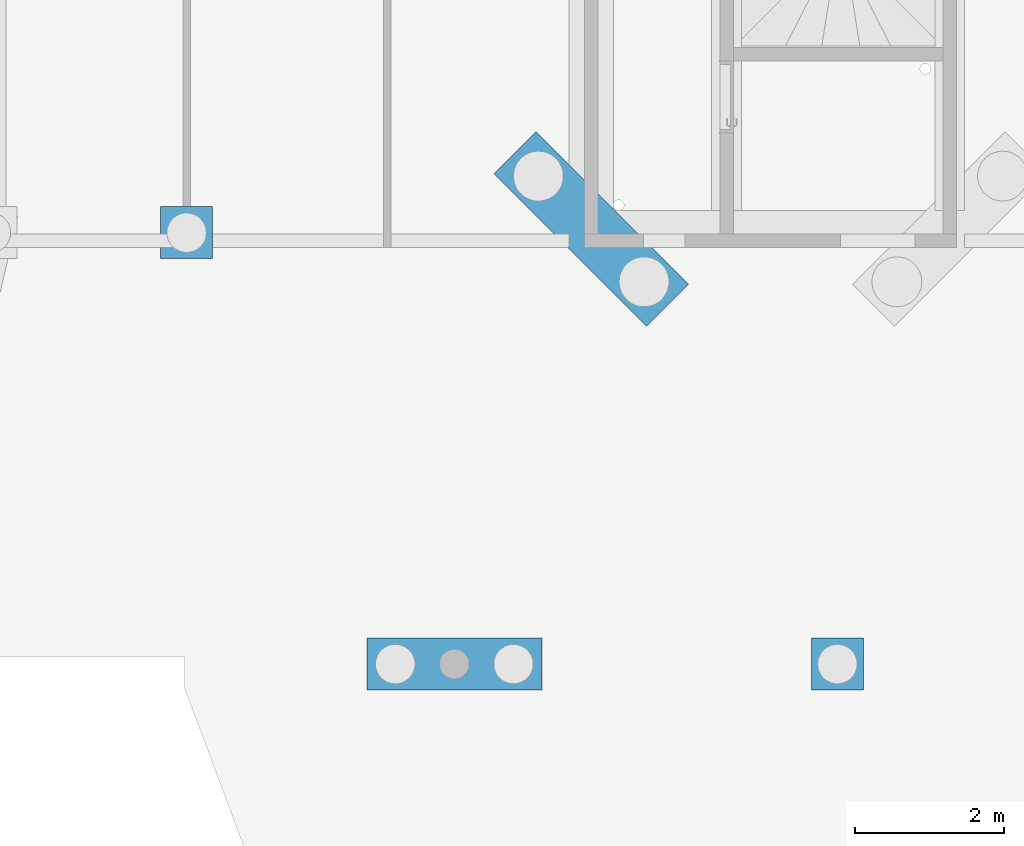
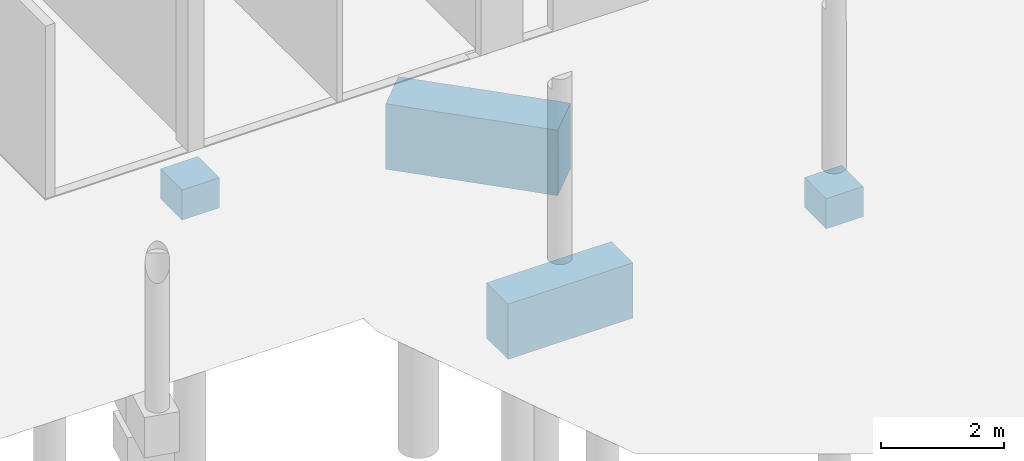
# One storey, part 17 of 29: 4 slabs.
"""IFC2X3 building model written with IfcOpenShell, lengths in centimetres."""

from ifc_helpers import new_model, entity, si_unit, converted_unit, derived_unit, direction, frame, origin, place, context, subcontext, project, spatial, faceted_brep, material, element, save


model = new_model("IFC2X3")

# Units and contexts
model_context = context("Model", 3, precision=0.001, world=origin(), true_north=direction((6.12303176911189e-17, 1.0)))
body_context = subcontext(model_context, "Body", "Model", "MODEL_VIEW")
ifc_project = project(units=[si_unit("LENGTHUNIT", "METRE", prefix="CENTI"), si_unit("AREAUNIT", "SQUARE_METRE"), si_unit("VOLUMEUNIT", "CUBIC_METRE"), converted_unit("PLANEANGLEUNIT", "DEGREE", entity("IfcRatioMeasure", 0.0174532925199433), si_unit("PLANEANGLEUNIT", "RADIAN"), dimensions=[0, 0, 0, 0, 0, 0, 0]), si_unit("MASSUNIT", "GRAM", prefix="KILO"), derived_unit("MASSDENSITYUNIT", [(si_unit("MASSUNIT", "GRAM", prefix="KILO"), 1), (si_unit("LENGTHUNIT", "METRE"), -3)]), si_unit("TIMEUNIT", "SECOND"), si_unit("FREQUENCYUNIT", "HERTZ"), si_unit("THERMODYNAMICTEMPERATUREUNIT", "DEGREE_CELSIUS"), derived_unit("THERMALTRANSMITTANCEUNIT", [(si_unit("MASSUNIT", "GRAM", prefix="KILO"), 1), (si_unit("THERMODYNAMICTEMPERATUREUNIT", "KELVIN"), -1), (si_unit("TIMEUNIT", "SECOND"), -3)]), derived_unit("VOLUMETRICFLOWRATEUNIT", [(si_unit("LENGTHUNIT", "METRE"), 3), (si_unit("TIMEUNIT", "SECOND"), -1)]), si_unit("ELECTRICCURRENTUNIT", "AMPERE"), si_unit("ELECTRICVOLTAGEUNIT", "VOLT"), si_unit("POWERUNIT", "WATT"), si_unit("FORCEUNIT", "NEWTON"), si_unit("ILLUMINANCEUNIT", "LUX"), si_unit("LUMINOUSFLUXUNIT", "LUMEN"), si_unit("LUMINOUSINTENSITYUNIT", "CANDELA"), derived_unit("USERDEFINED", [(si_unit("MASSUNIT", "GRAM", prefix="KILO"), -1), (si_unit("LENGTHUNIT", "METRE"), -2), (si_unit("TIMEUNIT", "SECOND"), 3), (si_unit("LUMINOUSFLUXUNIT", "LUMEN"), 1)]), derived_unit("LINEARVELOCITYUNIT", [(si_unit("LENGTHUNIT", "METRE"), 1), (si_unit("TIMEUNIT", "SECOND"), -1)]), si_unit("PRESSUREUNIT", "PASCAL"), derived_unit("USERDEFINED", [(si_unit("LENGTHUNIT", "METRE"), -2), (si_unit("MASSUNIT", "GRAM", prefix="KILO"), 1), (si_unit("TIMEUNIT", "SECOND"), -2)])], contexts=[model_context])

# Site, building, storey
site_placement = place(None, origin())
site = spatial("IfcSite", under=ifc_project, at=site_placement, Name="Default", CompositionType="ELEMENT")
building_placement = place(site_placement, origin())
building = spatial("IfcBuilding", under=site, at=building_placement, Name="CAGE 03", CompositionType="ELEMENT")
storey_placement = place(building_placement, frame((0.0, 0.0, -26.0)))
storey = spatial("IfcBuildingStorey", under=building, at=storey_placement, Name="+3.74", CompositionType="ELEMENT", Elevation=-26.0000000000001)

# Slabs
ifc_material = material(Name="Béton, C25/30")
slab_1_placement = place(storey_placement, frame((6538.86582014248, 3786.66066607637, -142.0)))
element("IfcSlab", 1, at=slab_1_placement, inside=storey, material=ifc_material, Name="M_Base-Rectangulaire:235x70x110ht", ObjectType="M_Base-Rectangulaire:235x70x110ht", PredefinedType="BASESLAB", context=body_context, shape_type="Brep", body=[
    faceted_brep([(235.0, 70.0, 110.0), (0.0, 70.0, 110.0), (0.0, 0.0, 110.0), (235.0, 0.0, 110.0), (0.0, 0.0, 0.0), (40.7700042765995, 8.64516977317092, 0.0), (235.0, 0.0, 0.0), (35.644512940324, 10.3105428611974, 0.0), (30.5190216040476, 11.9759159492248, 0.0), (25.3935302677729, 13.6412890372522, 0.0), (20.2680389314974, 15.3066621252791, 0.0), (18.0760291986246, 20.2299965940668, 0.0), (15.8840194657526, 25.1533310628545, 0.0), (13.6920097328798, 30.0766655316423, 0.0), (11.5000000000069, 35.0, 0.0), (0.0, 70.0, 0.0), (14.0305248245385, 42.7881545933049, 0.0), (16.561049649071, 50.5763091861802, 0.0), (21.2282861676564, 53.2709394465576, 0.0), (25.8955226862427, 55.9655697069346, 0.0), (30.5627592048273, 58.660199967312, 0.0), (35.2299957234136, 61.354830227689, 0.0), (194.229995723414, 61.354830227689, 0.0), (235.0, 70.0, 0.0), (223.500000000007, 35.0, 0.0), (221.307990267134, 39.9233344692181, 0.0), (199.355487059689, 59.689457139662, 0.0), (204.480978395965, 58.0240840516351, 0.0), (209.606469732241, 56.3587109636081, 0.0), (214.731961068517, 54.6933378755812, 0.0), (219.115980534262, 44.8466689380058, 0.0), (216.92397080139, 49.7700034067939, 0.0), (40.3554870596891, 59.689457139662, 0.0), (45.4809783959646, 58.0240840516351, 0.0), (50.6064697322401, 56.3587109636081, 0.0), (55.7319610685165, 54.6933378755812, 0.0), (189.562759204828, 58.660199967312, 0.0), (184.895522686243, 55.9655697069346, 0.0), (180.228286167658, 53.2709394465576, 0.0), (175.561049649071, 50.5763091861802, 0.0), (57.9239708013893, 49.7700034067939, 0.0), (60.1159805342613, 44.8466689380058, 0.0), (62.307990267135, 39.9233344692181, 0.0), (64.500000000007, 35.0, 0.0), (173.030524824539, 42.7881545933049, 0.0), (170.500000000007, 35.0, 0.0), (61.9694751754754, 27.2118454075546, 0.0), (59.438950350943, 19.4236908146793, 0.0), (172.692009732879, 30.0766655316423, 0.0), (174.884019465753, 25.1533310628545, 0.0), (177.076029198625, 20.2299965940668, 0.0), (179.268038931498, 15.3066621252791, 0.0), (45.4372407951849, 11.3398000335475, 0.0), (184.393530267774, 13.6412890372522, 0.0), (50.1044773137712, 14.0344302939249, 0.0), (54.7717138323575, 16.7290605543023, 0.0), (189.519021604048, 11.9759159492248, 0.0), (194.644512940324, 10.3105428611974, 0.0), (199.7700042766, 8.64516977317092, 0.0), (204.437240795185, 11.3398000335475, 0.0), (209.104477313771, 14.0344302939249, 0.0), (213.771713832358, 16.7290605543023, 0.0), (218.438950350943, 19.4236908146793, 0.0), (220.969475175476, 27.2118454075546, 0.0), (11.5000000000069, 35.0, 5.0), (13.6920097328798, 39.9233344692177, 5.0), (15.8840194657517, 44.8466689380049, 5.0), (18.0760291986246, 49.7700034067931, 5.0), (20.2680389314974, 54.6933378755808, 5.0), (25.3935302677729, 56.3587109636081, 5.0), (30.5190216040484, 58.0240840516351, 5.0), (35.6445129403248, 59.689457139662, 5.0), (40.7700042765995, 61.354830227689, 5.0), (45.4372407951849, 58.6601999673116, 5.0), (50.1044773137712, 55.965569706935, 5.0), (54.7717138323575, 53.2709394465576, 5.0), (59.438950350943, 50.5763091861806, 5.0), (61.9694751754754, 42.7881545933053, 5.0), (64.500000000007, 35.0, 5.0), (62.307990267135, 30.0766655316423, 5.0), (60.1159805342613, 25.1533310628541, 5.0), (57.9239708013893, 20.2299965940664, 5.0), (55.7319610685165, 15.3066621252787, 5.0), (50.606469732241, 13.6412890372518, 5.0), (45.4809783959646, 11.9759159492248, 5.0), (40.3554870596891, 10.3105428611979, 5.0), (35.2299957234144, 8.64516977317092, 5.0), (30.5627592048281, 11.3398000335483, 5.0), (25.8955226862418, 14.0344302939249, 5.0), (21.2282861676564, 16.7290605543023, 5.0), (16.561049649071, 19.4236908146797, 5.0), (14.0305248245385, 27.2118454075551, 5.0), (170.500000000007, 35.0, 5.0), (172.692009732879, 39.9233344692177, 5.0), (174.884019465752, 44.8466689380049, 5.0), (177.076029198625, 49.7700034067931, 5.0), (179.268038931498, 54.6933378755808, 5.0), (184.393530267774, 56.3587109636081, 5.0), (189.519021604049, 58.0240840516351, 5.0), (194.644512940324, 59.689457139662, 5.0), (199.7700042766, 61.354830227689, 5.0), (204.437240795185, 58.6601999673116, 5.0), (209.104477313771, 55.965569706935, 5.0), (213.771713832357, 53.2709394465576, 5.0), (218.438950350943, 50.5763091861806, 5.0), (220.969475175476, 42.7881545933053, 5.0), (223.500000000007, 35.0, 5.0), (221.307990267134, 30.0766655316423, 5.0), (219.115980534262, 25.1533310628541, 5.0), (216.92397080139, 20.2299965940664, 5.0), (214.731961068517, 15.3066621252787, 5.0), (209.60646973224, 13.6412890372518, 5.0), (204.480978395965, 11.9759159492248, 5.0), (199.355487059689, 10.3105428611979, 5.0), (194.229995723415, 8.64516977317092, 5.0), (189.562759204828, 11.3398000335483, 5.0), (184.895522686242, 14.0344302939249, 5.0), (180.228286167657, 16.7290605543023, 5.0), (175.561049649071, 19.4236908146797, 5.0), (173.030524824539, 27.2118454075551, 5.0)], [[[0, 1, 2, 3]], [[4, 5, 6]], [[4, 7, 5]], [[4, 8, 7]], [[4, 9, 8]], [[4, 10, 9]], [[4, 11, 10]], [[4, 12, 11]], [[4, 13, 12]], [[4, 14, 13]], [[14, 4, 15]], [[15, 16, 14]], [[15, 17, 16]], [[15, 18, 17]], [[15, 19, 18]], [[15, 20, 19]], [[15, 21, 20]], [[21, 15, 22]], [[23, 22, 15]], [[24, 23, 6]], [[23, 24, 25]], [[23, 26, 22]], [[23, 27, 26]], [[23, 28, 27]], [[23, 29, 28]], [[23, 25, 30]], [[23, 30, 31]], [[23, 31, 29]], [[22, 32, 21]], [[22, 33, 32]], [[22, 34, 33]], [[22, 35, 34]], [[35, 22, 36]], [[35, 36, 37]], [[35, 37, 38]], [[35, 38, 39]], [[39, 40, 35]], [[39, 41, 40]], [[39, 42, 41]], [[39, 43, 42]], [[43, 39, 44]], [[43, 44, 45]], [[45, 46, 43]], [[45, 47, 46]], [[47, 45, 48]], [[47, 48, 49]], [[47, 49, 50]], [[47, 50, 51]], [[51, 5, 52]], [[5, 51, 53]], [[51, 52, 54]], [[51, 54, 55]], [[51, 55, 47]], [[5, 53, 56]], [[5, 56, 57]], [[5, 57, 58]], [[6, 58, 59]], [[58, 6, 5]], [[6, 59, 60]], [[6, 60, 61]], [[6, 61, 62]], [[6, 62, 63]], [[6, 63, 24]], [[2, 1, 15, 4]], [[3, 2, 4, 6]], [[0, 3, 6, 23]], [[1, 0, 23, 15]], [[64, 65, 66, 67, 68, 69, 70, 71, 72, 73, 74, 75, 76, 77, 78, 79, 80, 81, 82, 83, 84, 85, 86, 87, 88, 89, 90, 91]], [[92, 93, 94, 95, 96, 97, 98, 99, 100, 101, 102, 103, 104, 105, 106, 107, 108, 109, 110, 111, 112, 113, 114, 115, 116, 117, 118, 119]], [[11, 12, 90]], [[91, 13, 64]], [[91, 90, 12]], [[90, 89, 11]], [[46, 47, 80]], [[87, 86, 8]], [[64, 13, 14]], [[54, 83, 55]], [[9, 10, 88]], [[47, 55, 82]], [[46, 79, 43]], [[8, 86, 7]], [[88, 10, 89]], [[12, 13, 91]], [[85, 7, 86]], [[89, 10, 11]], [[84, 83, 54]], [[9, 87, 8]], [[82, 55, 83]], [[81, 80, 47, 82]], [[85, 5, 7]], [[52, 5, 84, 54]], [[9, 88, 87]], [[78, 43, 79]], [[85, 84, 5]], [[46, 80, 79]], [[40, 41, 76]], [[77, 42, 78]], [[77, 76, 41]], [[76, 75, 40]], [[74, 35, 75]], [[73, 34, 74]], [[78, 42, 43]], [[21, 71, 20]], [[73, 72, 33]], [[67, 66, 17, 68]], [[16, 65, 14]], [[33, 72, 32]], [[41, 42, 77]], [[71, 21, 32]], [[75, 35, 40]], [[70, 69, 19]], [[34, 35, 74]], [[16, 17, 66]], [[73, 33, 34]], [[64, 14, 65]], [[70, 20, 71]], [[68, 18, 69]], [[19, 69, 18]], [[68, 17, 18]], [[71, 32, 72]], [[70, 19, 20]], [[16, 66, 65]], [[50, 49, 118]], [[119, 48, 92]], [[119, 118, 49]], [[118, 117, 50]], [[63, 62, 108]], [[115, 114, 56]], [[92, 48, 45]], [[60, 111, 61]], [[53, 51, 116]], [[62, 61, 110]], [[63, 107, 24]], [[56, 114, 57]], [[116, 51, 117]], [[49, 48, 119]], [[113, 57, 114]], [[117, 51, 50]], [[112, 111, 60]], [[53, 115, 56]], [[110, 61, 111]], [[109, 108, 62, 110]], [[113, 58, 57]], [[59, 58, 112, 60]], [[53, 116, 115]], [[106, 24, 107]], [[113, 112, 58]], [[63, 108, 107]], [[31, 30, 104]], [[105, 25, 106]], [[105, 104, 30]], [[104, 103, 31]], [[102, 29, 103]], [[101, 28, 102]], [[106, 25, 24]], [[22, 99, 36]], [[101, 100, 27]], [[95, 94, 39, 96]], [[44, 93, 45]], [[27, 100, 26]], [[30, 25, 105]], [[99, 22, 26]], [[103, 29, 31]], [[98, 97, 37]], [[28, 29, 102]], [[44, 39, 94]], [[101, 27, 28]], [[92, 45, 93]], [[98, 36, 99]], [[96, 38, 97]], [[37, 97, 38]], [[96, 39, 38]], [[99, 26, 100]], [[98, 37, 36]], [[44, 94, 93]]]),
])
slab_2_placement = place(storey_placement, frame((6709.55106562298, 4275.84591155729, -245.0)))
element("IfcSlab", 2, at=slab_2_placement, inside=storey, material=ifc_material, Name="M_Base-Rectangulaire:290x80x130ht", ObjectType="M_Base-Rectangulaire:290x80x130ht", PredefinedType="BASESLAB", context=body_context, shape_type="Brep", body=[
    faceted_brep([(261.629509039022, 56.5685424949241, 130.0), (56.5685424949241, 261.629509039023, 130.0), (0.0, 205.0609665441, 130.0), (205.060966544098, 0.0, 130.0), (0.0, 205.0609665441, 0.0), (34.9937242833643, 179.310181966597, 0.0), (177.122187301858, 37.1817189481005, 0.0), (205.060966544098, 0.0, 0.0), (32.8079239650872, 184.952382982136, 0.0), (30.6221236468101, 190.594583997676, 0.0), (28.436323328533, 196.236785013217, 0.0), (26.250523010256, 201.878986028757, 0.0), (28.436323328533, 207.521187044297, 0.0), (30.6221236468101, 213.163388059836, 0.0), (32.8079239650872, 218.805589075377, 0.0), (34.9937242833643, 224.447790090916, 0.0), (56.5685424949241, 261.629509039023, 0.0), (40.4101764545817, 227.144862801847, 0.0), (45.8266286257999, 229.841935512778, 0.0), (51.2430807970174, 232.539008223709, 0.0), (56.6595329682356, 235.23608093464, 0.0), (63.6214801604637, 232.539008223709, 0.0), (70.5834273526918, 229.841935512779, 0.0), (77.5453745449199, 227.144862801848, 0.0), (84.507321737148, 224.447790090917, 0.0), (261.629509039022, 56.5685424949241, 0.0), (226.635784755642, 82.3193270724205, 0.0), (226.635784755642, 37.1817189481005, 0.0), (228.821585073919, 42.8239199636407, 0.0), (228.821585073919, 76.6771260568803, 0.0), (231.007385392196, 71.0349250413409, 0.0), (233.193185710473, 65.3927240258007, 0.0), (235.37898602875, 59.7505230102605, 0.0), (231.007385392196, 48.46612097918, 0.0), (233.193185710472, 54.1083219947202, 0.0), (86.6931220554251, 218.805589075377, 0.0), (88.8789223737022, 213.163388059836, 0.0), (91.0647226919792, 207.521187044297, 0.0), (93.2505230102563, 201.878986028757, 0.0), (219.673837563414, 85.0163997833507, 0.0), (212.711890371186, 87.7134724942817, 0.0), (205.749943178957, 90.4105452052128, 0.0), (198.787995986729, 93.1076179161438, 0.0), (91.0647226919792, 196.236785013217, 0.0), (88.8789223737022, 190.594583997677, 0.0), (86.6931220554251, 184.952382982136, 0.0), (84.507321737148, 179.310181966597, 0.0), (193.371543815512, 90.4105452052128, 0.0), (187.955091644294, 87.7134724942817, 0.0), (182.538639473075, 85.0163997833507, 0.0), (177.122187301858, 82.3193270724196, 0.0), (79.0908695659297, 176.613109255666, 0.0), (73.6744173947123, 173.916036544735, 0.0), (68.257965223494, 171.218963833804, 0.0), (62.8415130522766, 168.521891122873, 0.0), (174.936386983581, 76.6771260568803, 0.0), (172.750586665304, 71.03492504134, 0.0), (170.564786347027, 65.3927240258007, 0.0), (168.37898602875, 59.7505230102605, 0.0), (41.9556714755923, 176.613109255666, 0.0), (170.564786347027, 54.1083219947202, 0.0), (48.9176186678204, 173.916036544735, 0.0), (55.8795658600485, 171.218963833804, 0.0), (172.750586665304, 48.46612097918, 0.0), (174.93638698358, 42.8239199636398, 0.0), (184.084134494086, 34.4846462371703, 0.0), (191.046081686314, 31.7875735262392, 0.0), (198.008028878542, 29.0905008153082, 0.0), (204.96997607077, 26.3934281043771, 0.0), (210.386428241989, 29.0905008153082, 0.0), (215.802880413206, 31.7875735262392, 0.0), (221.219332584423, 34.4846462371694, 0.0), (84.507321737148, 179.310181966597, 5.0), (77.5453745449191, 176.613109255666, 5.0), (70.5834273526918, 173.916036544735, 5.0), (63.6214801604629, 171.218963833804, 5.0), (56.6595329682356, 168.521891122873, 5.0), (51.2430807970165, 171.218963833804, 5.0), (45.8266286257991, 173.916036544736, 5.0), (40.4101764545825, 176.613109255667, 5.0), (34.9937242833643, 179.310181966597, 5.0), (32.8079239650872, 184.952382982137, 5.0), (30.6221236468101, 190.594583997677, 5.0), (29.0710783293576, 194.598293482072, 5.0), (26.250523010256, 201.878986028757, 5.0), (29.0710783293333, 209.15967857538, 5.0), (30.6221236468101, 213.163388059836, 5.0), (32.807923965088, 218.805589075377, 5.0), (34.9937242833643, 224.447790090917, 5.0), (41.9556714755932, 227.144862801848, 5.0), (48.9176186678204, 229.841935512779, 5.0), (55.8795658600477, 232.539008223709, 5.0), (62.8415130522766, 235.23608093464, 5.0), (68.2579652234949, 232.539008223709, 5.0), (73.6744173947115, 229.841935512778, 5.0), (79.0908695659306, 227.144862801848, 5.0), (84.507321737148, 224.447790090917, 5.0), (86.6931220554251, 218.805589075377, 5.0), (88.8789223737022, 213.163388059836, 5.0), (90.4299676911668, 209.159678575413, 5.0), (93.2505230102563, 201.878986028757, 5.0), (90.4299676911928, 194.59829348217, 5.0), (88.8789223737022, 190.594583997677, 5.0), (86.6931220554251, 184.952382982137, 5.0), (226.635784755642, 37.1817189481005, 5.0), (219.673837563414, 34.4846462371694, 5.0), (212.711890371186, 31.7875735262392, 5.0), (205.749943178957, 29.0905008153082, 5.0), (198.787995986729, 26.3934281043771, 5.0), (193.371543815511, 29.0905008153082, 5.0), (187.955091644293, 31.7875735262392, 5.0), (182.538639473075, 34.4846462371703, 5.0), (177.122187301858, 37.1817189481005, 5.0), (174.936386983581, 42.8239199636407, 5.0), (172.750586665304, 48.46612097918, 5.0), (171.199541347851, 52.4698304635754, 5.0), (168.37898602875, 59.7505230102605, 5.0), (171.199541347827, 67.031215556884, 5.0), (172.750586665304, 71.0349250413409, 5.0), (174.936386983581, 76.6771260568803, 5.0), (177.122187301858, 82.3193270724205, 5.0), (184.084134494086, 85.0163997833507, 5.0), (191.046081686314, 87.7134724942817, 5.0), (198.008028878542, 90.4105452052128, 5.0), (204.96997607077, 93.1076179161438, 5.0), (210.386428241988, 90.4105452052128, 5.0), (215.802880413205, 87.7134724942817, 5.0), (221.219332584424, 85.0163997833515, 5.0), (226.635784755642, 82.3193270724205, 5.0), (228.821585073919, 76.6771260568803, 5.0), (231.007385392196, 71.0349250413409, 5.0), (232.55843070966, 67.0312155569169, 5.0), (235.37898602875, 59.7505230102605, 5.0), (232.558430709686, 52.4698304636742, 5.0), (231.007385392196, 48.46612097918, 5.0), (228.821585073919, 42.8239199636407, 5.0)], [[[0, 1, 2, 3]], [[4, 5, 6]], [[6, 7, 4]], [[4, 8, 5]], [[4, 9, 8]], [[4, 10, 9]], [[4, 11, 10]], [[4, 12, 11]], [[4, 13, 12]], [[4, 14, 13]], [[4, 15, 14]], [[4, 16, 15]], [[16, 17, 15]], [[16, 18, 17]], [[16, 19, 18]], [[16, 20, 19]], [[16, 21, 20]], [[16, 22, 21]], [[16, 23, 22]], [[16, 24, 23]], [[24, 16, 25]], [[25, 26, 24]], [[27, 25, 7]], [[25, 27, 28]], [[25, 29, 26]], [[25, 30, 29]], [[25, 31, 30]], [[25, 32, 31]], [[25, 28, 33]], [[25, 33, 34]], [[25, 34, 32]], [[26, 35, 24]], [[26, 36, 35]], [[26, 37, 36]], [[26, 38, 37]], [[38, 26, 39]], [[38, 39, 40]], [[38, 40, 41]], [[38, 41, 42]], [[42, 43, 38]], [[42, 44, 43]], [[42, 45, 44]], [[42, 46, 45]], [[46, 42, 47]], [[46, 47, 48]], [[46, 48, 49]], [[46, 49, 50]], [[50, 51, 46]], [[50, 52, 51]], [[50, 53, 52]], [[50, 54, 53]], [[54, 50, 55]], [[54, 55, 56]], [[54, 56, 57]], [[54, 57, 58]], [[58, 5, 59]], [[5, 58, 60]], [[58, 59, 61]], [[58, 61, 62]], [[58, 62, 54]], [[5, 60, 63]], [[5, 63, 64]], [[5, 64, 6]], [[7, 6, 65]], [[7, 65, 66]], [[7, 66, 67]], [[7, 67, 68]], [[7, 68, 69]], [[7, 69, 70]], [[7, 70, 71]], [[7, 71, 27]], [[2, 1, 16, 4]], [[3, 2, 4, 7]], [[0, 3, 7, 25]], [[1, 0, 25, 16]], [[72, 73, 74, 75, 76, 77, 78, 79, 80, 81, 82, 83, 84, 85, 86, 87, 88, 89, 90, 91, 92, 93, 94, 95, 96, 97, 98, 99, 100, 101, 102, 103]], [[104, 105, 106, 107, 108, 109, 110, 111, 112, 113, 114, 115, 116, 117, 118, 119, 120, 121, 122, 123, 124, 125, 126, 127, 128, 129, 130, 131, 132, 133, 134, 135]], [[10, 11, 84, 83, 82, 81, 80, 5, 8, 9]], [[43, 44, 45, 46, 72, 103, 102, 101, 100, 38]], [[80, 79, 5]], [[79, 78, 59]], [[46, 51, 72]], [[74, 53, 75]], [[51, 73, 72]], [[54, 62, 76]], [[61, 59, 78]], [[79, 59, 5]], [[51, 52, 73]], [[73, 52, 74]], [[61, 77, 62]], [[54, 75, 53]], [[74, 52, 53]], [[76, 62, 77]], [[61, 78, 77]], [[54, 76, 75]], [[37, 38, 100, 99, 98, 97, 96, 24, 35, 36]], [[12, 13, 14, 15, 88, 87, 86, 85, 84, 11]], [[96, 95, 24]], [[95, 94, 23]], [[15, 17, 88]], [[90, 19, 91]], [[17, 89, 88]], [[20, 21, 92]], [[22, 23, 94]], [[95, 23, 24]], [[17, 18, 89]], [[89, 18, 90]], [[22, 93, 21]], [[20, 91, 19]], [[90, 18, 19]], [[92, 21, 93]], [[22, 94, 93]], [[20, 92, 91]], [[60, 58, 116, 115, 114, 113, 112, 6, 64, 63]], [[34, 33, 28, 27, 104, 135, 134, 133, 132, 32]], [[112, 111, 6]], [[111, 110, 65]], [[27, 71, 104]], [[106, 69, 107]], [[71, 105, 104]], [[68, 67, 108]], [[66, 65, 110]], [[111, 65, 6]], [[71, 70, 105]], [[105, 70, 106]], [[66, 109, 67]], [[68, 107, 69]], [[106, 70, 69]], [[108, 67, 109]], [[66, 110, 109]], [[68, 108, 107]], [[31, 32, 132, 131, 130, 129, 128, 26, 29, 30]], [[57, 56, 55, 50, 120, 119, 118, 117, 116, 58]], [[128, 127, 26]], [[127, 126, 39]], [[50, 49, 120]], [[122, 47, 123]], [[49, 121, 120]], [[42, 41, 124]], [[40, 39, 126]], [[127, 39, 26]], [[49, 48, 121]], [[121, 48, 122]], [[40, 125, 41]], [[42, 123, 47]], [[122, 48, 47]], [[124, 41, 125]], [[40, 126, 125]], [[42, 124, 123]]]),
])
slab_3_placement = place(storey_placement, frame((7136.36582014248, 3786.6606660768, -92.0)))
element("IfcSlab", 3, at=slab_3_placement, inside=storey, material=ifc_material, Name="M_Base-Rectangulaire:70x70x60ht", ObjectType="M_Base-Rectangulaire:70x70x60ht", PredefinedType="BASESLAB", context=body_context, shape_type="Brep", body=[
    faceted_brep([(70.0, 70.0, 60.0), (0.0, 70.0, 60.0), (0.0, 0.0, 60.0), (70.0, 0.0, 60.0), (0.0, 0.0, 0.0), (8.50000000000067, 35.0, 0.0), (10.6920097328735, 30.0766655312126, 0.0), (0.0, 70.0, 0.0), (12.8840194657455, 25.1533310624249, 0.0), (15.0760291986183, 20.2299965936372, 0.0), (17.2680389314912, 15.3066621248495, 0.0), (22.3935302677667, 13.6412890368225, 0.0), (27.5190216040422, 11.9759159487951, 0.0), (32.6445129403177, 10.3105428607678, 0.0), (37.7700042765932, 8.64516977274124, 0.0), (70.0, 0.0, 0.0), (11.0305248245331, 42.7881545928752, 0.0), (13.5610496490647, 50.5763091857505, 0.0), (18.228286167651, 53.2709394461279, 0.0), (22.8955226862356, 55.9655697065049, 0.0), (27.5627592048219, 58.6601999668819, 0.0), (32.2299957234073, 61.3548302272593, 0.0), (70.0, 70.0, 0.0), (61.5000000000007, 35.0, 0.0), (59.3079902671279, 39.9233344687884, 0.0), (57.1159805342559, 44.8466689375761, 0.0), (54.9239708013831, 49.7700034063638, 0.0), (52.7319610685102, 54.6933378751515, 0.0), (47.6064697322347, 56.3587109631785, 0.0), (42.4809783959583, 58.0240840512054, 0.0), (37.3554870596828, 59.6894571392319, 0.0), (42.4372407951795, 11.3398000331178, 0.0), (47.104477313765, 14.0344302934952, 0.0), (51.7717138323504, 16.7290605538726, 0.0), (56.4389503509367, 19.4236908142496, 0.0), (58.9694751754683, 27.2118454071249, 0.0), (8.50000000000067, 35.0, 5.0), (10.6920097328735, 39.923334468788, 5.0), (12.8840194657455, 44.8466689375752, 5.0), (15.0760291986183, 49.7700034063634, 5.0), (17.2680389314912, 54.6933378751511, 5.0), (22.3935302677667, 56.3587109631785, 5.0), (27.5190216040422, 58.0240840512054, 5.0), (32.6445129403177, 59.6894571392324, 5.0), (37.7700042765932, 61.3548302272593, 5.0), (42.4372407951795, 58.6601999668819, 5.0), (47.104477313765, 55.9655697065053, 5.0), (51.7717138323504, 53.2709394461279, 5.0), (56.4389503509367, 50.5763091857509, 5.0), (58.9694751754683, 42.7881545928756, 5.0), (61.5000000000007, 35.0, 5.0), (59.3079902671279, 30.0766655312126, 5.0), (57.1159805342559, 25.1533310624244, 5.0), (54.9239708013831, 20.2299965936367, 5.0), (52.7319610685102, 15.306662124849, 5.0), (47.6064697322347, 13.6412890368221, 5.0), (42.4809783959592, 11.9759159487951, 5.0), (37.3554870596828, 10.3105428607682, 5.0), (32.2299957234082, 8.64516977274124, 5.0), (27.5627592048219, 11.3398000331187, 5.0), (22.8955226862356, 14.0344302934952, 5.0), (18.2282861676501, 16.7290605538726, 5.0), (13.5610496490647, 19.42369081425, 5.0), (11.0305248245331, 27.2118454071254, 5.0)], [[[0, 1, 2, 3]], [[4, 5, 6]], [[5, 4, 7]], [[4, 6, 8]], [[4, 8, 9]], [[4, 9, 10]], [[4, 10, 11]], [[4, 11, 12]], [[4, 12, 13]], [[4, 13, 14]], [[14, 15, 4]], [[7, 16, 5]], [[7, 17, 16]], [[7, 18, 17]], [[7, 19, 18]], [[7, 20, 19]], [[7, 21, 20]], [[21, 7, 22]], [[23, 22, 15]], [[22, 23, 24]], [[22, 24, 25]], [[22, 25, 26]], [[22, 26, 27]], [[22, 27, 28]], [[22, 28, 29]], [[22, 29, 30]], [[22, 30, 21]], [[15, 14, 31]], [[15, 31, 32]], [[15, 32, 33]], [[15, 33, 34]], [[15, 34, 35]], [[15, 35, 23]], [[2, 1, 7, 4]], [[3, 2, 4, 15]], [[0, 3, 15, 22]], [[1, 0, 22, 7]], [[36, 37, 38, 39, 40, 41, 42, 43, 44, 45, 46, 47, 48, 49, 50, 51, 52, 53, 54, 55, 56, 57, 58, 59, 60, 61, 62, 63]], [[9, 8, 62]], [[63, 6, 36]], [[63, 62, 8]], [[62, 61, 9]], [[35, 34, 52]], [[59, 58, 12]], [[36, 6, 5]], [[32, 55, 33]], [[11, 10, 60]], [[34, 33, 54]], [[35, 51, 23]], [[12, 58, 13]], [[60, 10, 61]], [[8, 6, 63]], [[57, 13, 58]], [[61, 10, 9]], [[56, 55, 32]], [[11, 59, 12]], [[54, 33, 55]], [[53, 52, 34, 54]], [[57, 14, 13]], [[31, 14, 56, 32]], [[11, 60, 59]], [[50, 23, 51]], [[57, 56, 14]], [[35, 52, 51]], [[26, 25, 48]], [[49, 24, 50]], [[49, 48, 25]], [[48, 47, 26]], [[46, 27, 47]], [[45, 28, 46]], [[50, 24, 23]], [[21, 43, 20]], [[45, 44, 29]], [[39, 38, 17, 40]], [[16, 37, 5]], [[29, 44, 30]], [[25, 24, 49]], [[43, 21, 30]], [[47, 27, 26]], [[42, 41, 19]], [[28, 27, 46]], [[16, 17, 38]], [[45, 29, 28]], [[36, 5, 37]], [[42, 20, 43]], [[40, 18, 41]], [[19, 41, 18]], [[40, 17, 18]], [[43, 30, 44]], [[42, 19, 20]], [[16, 38, 37]]]),
])
slab_4_placement = place(storey_placement, frame((6261.36582014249, 4366.66066607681, -120.0)))
element("IfcSlab", 4, at=slab_4_placement, inside=storey, material=ifc_material, Name="M_Base-Rectangulaire:70x70x60ht", ObjectType="M_Base-Rectangulaire:70x70x60ht", PredefinedType="BASESLAB", context=body_context, shape_type="Brep", body=[
    faceted_brep([(70.0, 70.0, 60.0), (0.0, 70.0, 60.0), (0.0, 0.0, 60.0), (70.0, 0.0, 60.0), (0.0, 0.0, 0.0), (8.50000000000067, 35.0, 0.0), (10.6920097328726, 30.0766655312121, 0.0), (0.0, 70.0, 0.0), (12.8840194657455, 25.1533310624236, 0.0), (15.0760291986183, 20.2299965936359, 0.0), (17.2680389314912, 15.306662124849, 0.0), (22.3935302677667, 13.6412890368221, 0.0), (27.5190216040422, 11.9759159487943, 0.0), (32.6445129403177, 10.3105428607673, 0.0), (37.7700042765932, 8.64516977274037, 0.0), (70.0, 0.0, 0.0), (11.0305248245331, 42.7881545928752, 0.0), (13.5610496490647, 50.5763091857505, 0.0), (18.2282861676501, 53.2709394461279, 0.0), (22.8955226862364, 55.9655697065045, 0.0), (27.5627592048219, 58.6601999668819, 0.0), (32.2299957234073, 61.3548302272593, 0.0), (70.0, 70.0, 0.0), (61.5000000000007, 35.0, 0.0), (59.3079902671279, 39.9233344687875, 0.0), (57.1159805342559, 44.8466689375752, 0.0), (54.9239708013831, 49.7700034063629, 0.0), (52.7319610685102, 54.6933378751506, 0.0), (47.6064697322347, 56.3587109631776, 0.0), (42.4809783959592, 58.0240840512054, 0.0), (37.3554870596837, 59.6894571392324, 0.0), (42.4372407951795, 11.3398000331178, 0.0), (47.104477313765, 14.0344302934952, 0.0), (51.7717138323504, 16.7290605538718, 0.0), (56.4389503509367, 19.4236908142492, 0.0), (58.9694751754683, 27.2118454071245, 0.0), (8.50000000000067, 35.0, 5.0), (10.6920097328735, 39.9233344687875, 5.0), (12.8840194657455, 44.8466689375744, 5.0), (15.0760291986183, 49.7700034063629, 5.0), (17.2680389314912, 54.6933378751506, 5.0), (22.3935302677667, 56.3587109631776, 5.0), (27.5190216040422, 58.0240840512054, 5.0), (32.6445129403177, 59.6894571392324, 5.0), (37.7700042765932, 61.3548302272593, 5.0), (42.4372407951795, 58.6601999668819, 5.0), (47.104477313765, 55.9655697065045, 5.0), (51.7717138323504, 53.2709394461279, 5.0), (56.4389503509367, 50.5763091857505, 5.0), (58.9694751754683, 42.7881545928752, 5.0), (61.5000000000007, 35.0, 5.0), (59.3079902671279, 30.0766655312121, 5.0), (57.1159805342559, 25.1533310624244, 5.0), (54.9239708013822, 20.2299965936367, 5.0), (52.7319610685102, 15.306662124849, 5.0), (47.6064697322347, 13.6412890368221, 5.0), (42.4809783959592, 11.9759159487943, 5.0), (37.355487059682, 10.3105428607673, 5.0), (32.2299957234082, 8.64516977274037, 5.0), (27.5627592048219, 11.3398000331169, 5.0), (22.8955226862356, 14.0344302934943, 5.0), (18.2282861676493, 16.7290605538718, 5.0), (13.5610496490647, 19.4236908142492, 5.0), (11.0305248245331, 27.2118454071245, 5.0)], [[[0, 1, 2, 3]], [[4, 5, 6]], [[5, 4, 7]], [[4, 6, 8]], [[4, 8, 9]], [[4, 9, 10]], [[4, 10, 11]], [[4, 11, 12]], [[4, 12, 13]], [[4, 13, 14]], [[14, 15, 4]], [[7, 16, 5]], [[7, 17, 16]], [[7, 18, 17]], [[7, 19, 18]], [[7, 20, 19]], [[7, 21, 20]], [[21, 7, 22]], [[23, 22, 15]], [[22, 23, 24]], [[22, 24, 25]], [[22, 25, 26]], [[22, 26, 27]], [[22, 27, 28]], [[22, 28, 29]], [[22, 29, 30]], [[22, 30, 21]], [[15, 14, 31]], [[15, 31, 32]], [[15, 32, 33]], [[15, 33, 34]], [[15, 34, 35]], [[15, 35, 23]], [[2, 1, 7, 4]], [[3, 2, 4, 15]], [[0, 3, 15, 22]], [[1, 0, 22, 7]], [[36, 37, 38, 39, 40, 41, 42, 43, 44, 45, 46, 47, 48, 49, 50, 51, 52, 53, 54, 55, 56, 57, 58, 59, 60, 61, 62, 63]], [[9, 8, 62]], [[63, 6, 36]], [[63, 62, 8]], [[62, 61, 9]], [[35, 34, 52]], [[59, 58, 12]], [[36, 6, 5]], [[32, 55, 33]], [[11, 10, 60]], [[34, 33, 54]], [[35, 51, 23]], [[12, 58, 13]], [[60, 10, 61]], [[8, 6, 63]], [[57, 13, 58]], [[61, 10, 9]], [[56, 55, 32]], [[11, 59, 12]], [[54, 33, 55]], [[53, 52, 34, 54]], [[57, 14, 13]], [[31, 14, 56, 32]], [[11, 60, 59]], [[50, 23, 51]], [[57, 56, 14]], [[35, 52, 51]], [[26, 25, 48]], [[49, 24, 50]], [[49, 48, 25]], [[48, 47, 26]], [[46, 27, 47]], [[45, 28, 46]], [[50, 24, 23]], [[21, 43, 20]], [[45, 44, 29]], [[39, 38, 17, 40]], [[16, 37, 5]], [[29, 44, 30]], [[25, 24, 49]], [[43, 21, 30]], [[47, 27, 26]], [[42, 41, 19]], [[28, 27, 46]], [[16, 17, 38]], [[45, 29, 28]], [[36, 5, 37]], [[42, 20, 43]], [[40, 18, 41]], [[19, 41, 18]], [[40, 17, 18]], [[43, 30, 44]], [[42, 19, 20]], [[16, 38, 37]]]),
])

save(model, "model.ifc")
